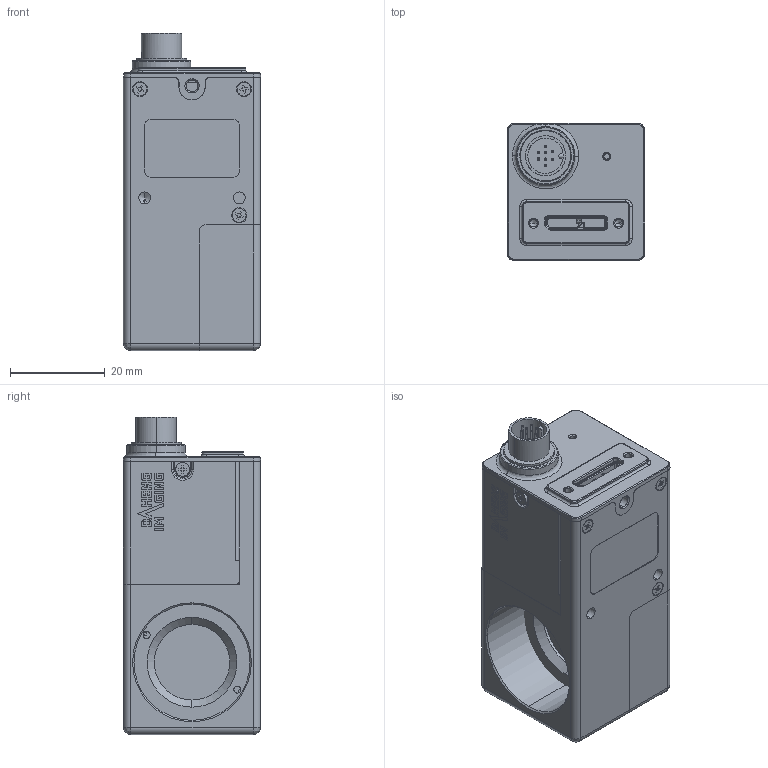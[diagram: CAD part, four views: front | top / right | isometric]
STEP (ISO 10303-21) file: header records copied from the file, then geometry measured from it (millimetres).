
FILE_DESCRIPTION (( 'STEP AP203' ), '1' );
FILE_NAME ('mer2_u3_w90_user_s1.0.0.STEP', '2020-04-09T05:40:08', ( '' ), ( '' ), 'SwSTEP 2.0', 'SolidWorks 2016', '' );
FILE_SCHEMA (( 'CONFIG_CONTROL_DESIGN' ));
Products named in the file (1): mer2_u3_w90_user_s1.0.0
Bounding box: 29.02 x 29 x 67.1 mm (x, y, z)
Volume: 43452.2 mm3; surface area: 25748.4 mm2
Topology: 11 solids, 23 shells, 2359 faces, 6542 edges, 4245 vertices
Faces by surface type: plane 1194, cylinder 763, bspline 195, cone 132, torus 60, sphere 15
Entity records: 93446 total; most frequent: CARTESIAN_POINT 36849, ORIENTED_EDGE 13020, DIRECTION 9958, EDGE_CURVE 6510, VERTEX_POINT 4245, LINE 3864, VECTOR 3864, AXIS2_PLACEMENT_3D 3047
